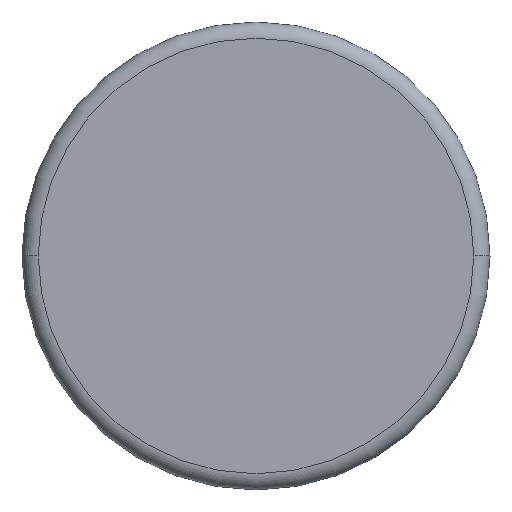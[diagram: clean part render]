
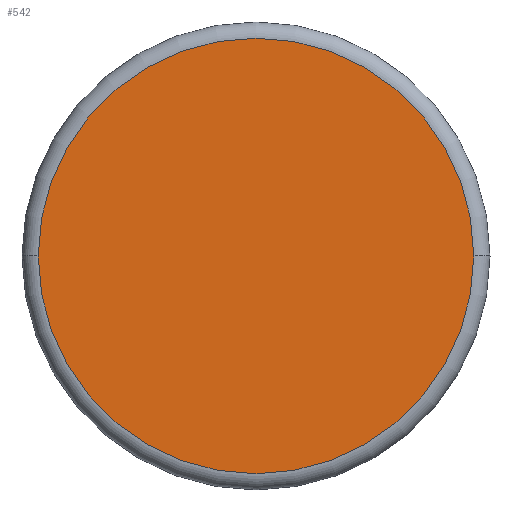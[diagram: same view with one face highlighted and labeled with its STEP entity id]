
A CAD part, top view. The second image highlights one B-rep face of the part: STEP entity #542.
In plain terms, the highlighted planar face has unit normal (0, 0, 1).
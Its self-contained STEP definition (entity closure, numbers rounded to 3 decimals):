
#4 = CARTESIAN_POINT ( 'NONE',  ( 0., 0., 60. ) ) ;
#12 = ORIENTED_EDGE ( 'NONE', *, *, #456, .T. ) ;
#41 = EDGE_CURVE ( 'NONE', #221, #65, #505, .T. ) ;
#58 = AXIS2_PLACEMENT_3D ( 'NONE', #472, #525, #477 ) ;
#65 = VERTEX_POINT ( 'NONE', #636 ) ;
#91 = AXIS2_PLACEMENT_3D ( 'NONE', #119, #457, #426 ) ;
#119 = CARTESIAN_POINT ( 'NONE',  ( 0., 0., 60. ) ) ;
#126 = ORIENTED_EDGE ( 'NONE', *, *, #41, .T. ) ;
#128 = FACE_OUTER_BOUND ( 'NONE', #141, .T. ) ;
#141 = EDGE_LOOP ( 'NONE', ( #12, #126 ) ) ;
#187 = DIRECTION ( 'NONE',  ( 0., 0., 1. ) ) ;
#221 = VERTEX_POINT ( 'NONE', #241 ) ;
#241 = CARTESIAN_POINT ( 'NONE',  ( -40.25, 0., 60. ) ) ;
#331 = PLANE ( 'NONE',  #58 ) ;
#426 = DIRECTION ( 'NONE',  ( 1., 0., 0. ) ) ;
#456 = EDGE_CURVE ( 'NONE', #65, #221, #501, .T. ) ;
#457 = DIRECTION ( 'NONE',  ( 0., 0., 1. ) ) ;
#472 = CARTESIAN_POINT ( 'NONE',  ( 0., 0., 60. ) ) ;
#477 = DIRECTION ( 'NONE',  ( 1., 0., 0. ) ) ;
#501 = CIRCLE ( 'NONE', #91, 40.25 ) ;
#505 = CIRCLE ( 'NONE', #590, 40.25 ) ;
#525 = DIRECTION ( 'NONE',  ( 0., 0., 1. ) ) ;
#542 = ADVANCED_FACE ( 'NONE', ( #128 ), #331, .T. ) ;
#547 = DIRECTION ( 'NONE',  ( 1., 0., 0. ) ) ;
#590 = AXIS2_PLACEMENT_3D ( 'NONE', #4, #187, #547 ) ;
#636 = CARTESIAN_POINT ( 'NONE',  ( 40.25, 0., 60. ) ) ;
